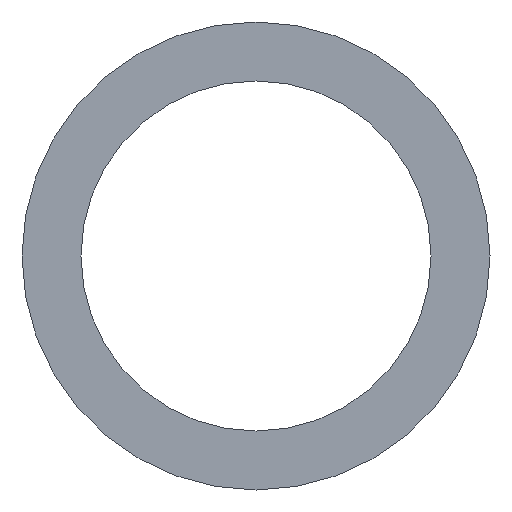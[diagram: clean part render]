
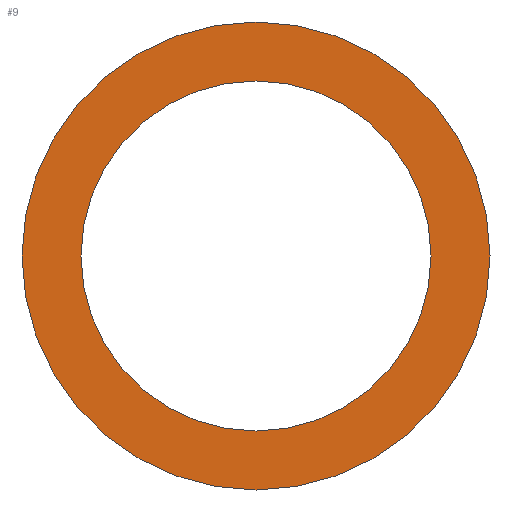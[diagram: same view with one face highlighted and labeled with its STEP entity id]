
A CAD part, front view. The second image highlights one B-rep face of the part: STEP entity #9.
In plain terms, the highlighted planar face has unit normal (0, -1, 0).
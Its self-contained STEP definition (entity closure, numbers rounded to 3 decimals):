
#5 = DIRECTION ( 'NONE',  ( 0., 0., 1. ) ) ;
#6 = AXIS2_PLACEMENT_3D ( 'NONE', #77, #118, #189 ) ;
#9 = ADVANCED_FACE ( 'NONE', ( #59, #188 ), #116, .F. ) ;
#10 = CIRCLE ( 'NONE', #195, 3.175 ) ;
#11 = ORIENTED_EDGE ( 'NONE', *, *, #121, .T. ) ;
#13 = VERTEX_POINT ( 'NONE', #18 ) ;
#18 = CARTESIAN_POINT ( 'NONE',  ( 0., 0., 2.375 ) ) ;
#36 = ORIENTED_EDGE ( 'NONE', *, *, #101, .T. ) ;
#37 = AXIS2_PLACEMENT_3D ( 'NONE', #143, #66, #5 ) ;
#40 = DIRECTION ( 'NONE',  ( 0., 1., 0. ) ) ;
#43 = ORIENTED_EDGE ( 'NONE', *, *, #154, .F. ) ;
#53 = CARTESIAN_POINT ( 'NONE',  ( 0., 0., 3.175 ) ) ;
#57 = CARTESIAN_POINT ( 'NONE',  ( 0., 0., 0. ) ) ;
#59 = FACE_OUTER_BOUND ( 'NONE', #196, .T. ) ;
#66 = DIRECTION ( 'NONE',  ( 0., 1., 0. ) ) ;
#77 = CARTESIAN_POINT ( 'NONE',  ( 0., 0., 0. ) ) ;
#80 = DIRECTION ( 'NONE',  ( 0., 0., 1. ) ) ;
#84 = AXIS2_PLACEMENT_3D ( 'NONE', #119, #103, #186 ) ;
#87 = VERTEX_POINT ( 'NONE', #197 ) ;
#101 = EDGE_CURVE ( 'NONE', #87, #13, #142, .T. ) ;
#102 = VERTEX_POINT ( 'NONE', #171 ) ;
#103 = DIRECTION ( 'NONE',  ( 0., 1., 0. ) ) ;
#105 = AXIS2_PLACEMENT_3D ( 'NONE', #193, #40, #161 ) ;
#114 = DIRECTION ( 'NONE',  ( 0., 1., 0. ) ) ;
#116 = PLANE ( 'NONE',  #84 ) ;
#117 = EDGE_CURVE ( 'NONE', #102, #184, #10, .T. ) ;
#118 = DIRECTION ( 'NONE',  ( 0., 1., 0. ) ) ;
#119 = CARTESIAN_POINT ( 'NONE',  ( 0., 0., 0. ) ) ;
#121 = EDGE_CURVE ( 'NONE', #13, #87, #146, .T. ) ;
#128 = CIRCLE ( 'NONE', #37, 3.175 ) ;
#132 = ORIENTED_EDGE ( 'NONE', *, *, #117, .F. ) ;
#142 = CIRCLE ( 'NONE', #6, 2.375 ) ;
#143 = CARTESIAN_POINT ( 'NONE',  ( 0., 0., 0. ) ) ;
#146 = CIRCLE ( 'NONE', #105, 2.375 ) ;
#152 = EDGE_LOOP ( 'NONE', ( #36, #11 ) ) ;
#154 = EDGE_CURVE ( 'NONE', #184, #102, #128, .T. ) ;
#161 = DIRECTION ( 'NONE',  ( 0., 0., 1. ) ) ;
#171 = CARTESIAN_POINT ( 'NONE',  ( 0., 0., -3.175 ) ) ;
#184 = VERTEX_POINT ( 'NONE', #53 ) ;
#186 = DIRECTION ( 'NONE',  ( 0., 0., 1. ) ) ;
#188 = FACE_BOUND ( 'NONE', #152, .T. ) ;
#189 = DIRECTION ( 'NONE',  ( 0., 0., 1. ) ) ;
#193 = CARTESIAN_POINT ( 'NONE',  ( 0., 0., 0. ) ) ;
#195 = AXIS2_PLACEMENT_3D ( 'NONE', #57, #114, #80 ) ;
#196 = EDGE_LOOP ( 'NONE', ( #132, #43 ) ) ;
#197 = CARTESIAN_POINT ( 'NONE',  ( 0., 0., -2.375 ) ) ;
